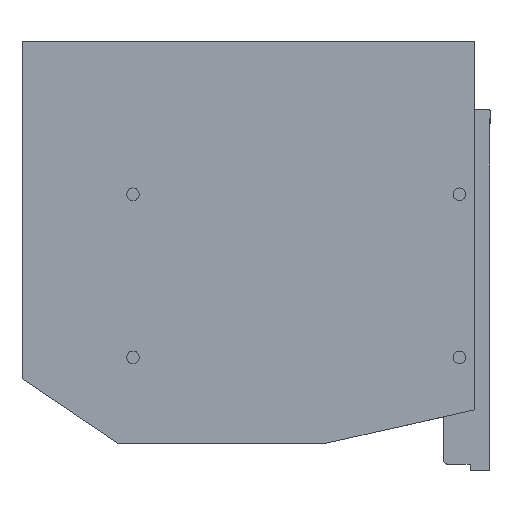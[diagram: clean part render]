
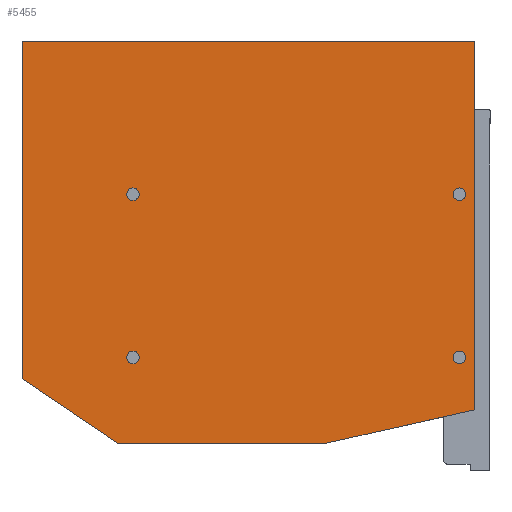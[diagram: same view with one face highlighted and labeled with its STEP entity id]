
A CAD part, left-side view. The second image highlights one B-rep face of the part: STEP entity #5455.
In plain terms, the highlighted planar face has unit normal (-1, 0, 0).
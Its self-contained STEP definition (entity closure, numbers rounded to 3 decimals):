
#30 = EDGE_CURVE ( 'NONE', #178, #1201, #2714, .T. ) ;
#33 = EDGE_CURVE ( 'NONE', #1201, #1506, #2723, .T. ) ;
#34 = EDGE_CURVE ( 'NONE', #1499, #1484, #2735, .T. ) ;
#35 = EDGE_CURVE ( 'NONE', #1459, #1460, #5557, .T. ) ;
#178 = VERTEX_POINT ( 'NONE', #3106 ) ;
#193 = ORIENTED_EDGE ( 'NONE', *, *, #35, .F. ) ;
#194 = ORIENTED_EDGE ( 'NONE', *, *, #5439, .F. ) ;
#195 = ORIENTED_EDGE ( 'NONE', *, *, #1012, .F. ) ;
#196 = ORIENTED_EDGE ( 'NONE', *, *, #5435, .F. ) ;
#197 = ORIENTED_EDGE ( 'NONE', *, *, #1013, .F. ) ;
#198 = ORIENTED_EDGE ( 'NONE', *, *, #5431, .F. ) ;
#199 = ORIENTED_EDGE ( 'NONE', *, *, #1014, .F. ) ;
#200 = ORIENTED_EDGE ( 'NONE', *, *, #988, .F. ) ;
#201 = ORIENTED_EDGE ( 'NONE', *, *, #1164, .T. ) ;
#202 = ORIENTED_EDGE ( 'NONE', *, *, #30, .T. ) ;
#203 = ORIENTED_EDGE ( 'NONE', *, *, #33, .T. ) ;
#204 = ORIENTED_EDGE ( 'NONE', *, *, #840, .T. ) ;
#205 = ORIENTED_EDGE ( 'NONE', *, *, #34, .T. ) ;
#206 = ORIENTED_EDGE ( 'NONE', *, *, #822, .T. ) ;
#371 = CARTESIAN_POINT ( 'NONE',  ( 0., 0., 0. ) ) ;
#372 = DIRECTION ( 'NONE',  ( -1., 0., 0. ) ) ;
#373 = DIRECTION ( 'NONE',  ( 0., -1., 0. ) ) ;
#486 = CARTESIAN_POINT ( 'NONE',  ( 0., 128., -64. ) ) ;
#487 = DIRECTION ( 'NONE',  ( -1., 0., 0. ) ) ;
#488 = DIRECTION ( 'NONE',  ( 0., -1., 0. ) ) ;
#490 = CARTESIAN_POINT ( 'NONE',  ( 0., 128., 0. ) ) ;
#491 = DIRECTION ( 'NONE',  ( -1., 0., 0. ) ) ;
#492 = DIRECTION ( 'NONE',  ( 0., -1., 0. ) ) ;
#495 = CARTESIAN_POINT ( 'NONE',  ( 0., 0., 0. ) ) ;
#496 = DIRECTION ( 'NONE',  ( -1., 0., 0. ) ) ;
#497 = DIRECTION ( 'NONE',  ( 0., -1., 0. ) ) ;
#822 = EDGE_CURVE ( 'NONE', #1484, #1463, #3711, .T. ) ;
#840 = EDGE_CURVE ( 'NONE', #1506, #1499, #3839, .T. ) ;
#988 = EDGE_CURVE ( 'NONE', #2189, #2190, #4486, .T. ) ;
#1012 = EDGE_CURVE ( 'NONE', #2182, #2234, #4492, .T. ) ;
#1013 = EDGE_CURVE ( 'NONE', #2186, #2185, #4489, .T. ) ;
#1014 = EDGE_CURVE ( 'NONE', #2190, #2189, #4491, .T. ) ;
#1164 = EDGE_CURVE ( 'NONE', #1463, #178, #1861, .T. ) ;
#1201 = VERTEX_POINT ( 'NONE', #1919 ) ;
#1459 = VERTEX_POINT ( 'NONE', #3146 ) ;
#1460 = VERTEX_POINT ( 'NONE', #3147 ) ;
#1463 = VERTEX_POINT ( 'NONE', #3150 ) ;
#1484 = VERTEX_POINT ( 'NONE', #3171 ) ;
#1499 = VERTEX_POINT ( 'NONE', #3186 ) ;
#1506 = VERTEX_POINT ( 'NONE', #3193 ) ;
#1861 = LINE ( 'NONE', #1862, #4661 ) ;
#1862 = CARTESIAN_POINT ( 'NONE',  ( 0., 171.5, -72.4 ) ) ;
#1863 = DIRECTION ( 'NONE',  ( 0., 0., -1. ) ) ;
#1919 = CARTESIAN_POINT ( 'NONE',  ( 0., 134.003, -97.596 ) ) ;
#2182 = VERTEX_POINT ( 'NONE', #3200 ) ;
#2185 = VERTEX_POINT ( 'NONE', #3206 ) ;
#2186 = VERTEX_POINT ( 'NONE', #3208 ) ;
#2189 = VERTEX_POINT ( 'NONE', #3199 ) ;
#2190 = VERTEX_POINT ( 'NONE', #3210 ) ;
#2234 = VERTEX_POINT ( 'NONE', #3228 ) ;
#2449 = EDGE_LOOP ( 'NONE', ( #197, #198 ) ) ;
#2455 = EDGE_LOOP ( 'NONE', ( #195, #196 ) ) ;
#2456 = EDGE_LOOP ( 'NONE', ( #199, #200 ) ) ;
#2457 = EDGE_LOOP ( 'NONE', ( #201, #202, #203, #204, #205, #206 ) ) ;
#2458 = EDGE_LOOP ( 'NONE', ( #193, #194 ) ) ;
#2714 = LINE ( 'NONE', #2725, #5562 ) ;
#2723 = LINE ( 'NONE', #2733, #5564 ) ;
#2725 = CARTESIAN_POINT ( 'NONE',  ( 0., 134.003, -97.596 ) ) ;
#2726 = DIRECTION ( 'NONE',  ( 0., -0.83, -0.558 ) ) ;
#2733 = CARTESIAN_POINT ( 'NONE',  ( 0., 52., -97.596 ) ) ;
#2734 = DIRECTION ( 'NONE',  ( 0., -1., 0. ) ) ;
#2735 = LINE ( 'NONE', #2736, #5561 ) ;
#2736 = CARTESIAN_POINT ( 'NONE',  ( 0., -6., 60. ) ) ;
#2737 = DIRECTION ( 'NONE',  ( 0., 0., 1. ) ) ;
#2741 = CARTESIAN_POINT ( 'NONE',  ( 0., 0., -64. ) ) ;
#2742 = DIRECTION ( 'NONE',  ( -1., 0., 0. ) ) ;
#2743 = DIRECTION ( 'NONE',  ( 0., -1., 0. ) ) ;
#3106 = CARTESIAN_POINT ( 'NONE',  ( 0., 171.5, -72.4 ) ) ;
#3146 = CARTESIAN_POINT ( 'NONE',  ( 0., -2.45, -64. ) ) ;
#3147 = CARTESIAN_POINT ( 'NONE',  ( 0., 2.45, -64. ) ) ;
#3150 = CARTESIAN_POINT ( 'NONE',  ( 0., 171.5, 60. ) ) ;
#3171 = CARTESIAN_POINT ( 'NONE',  ( 0., -6., 60. ) ) ;
#3186 = CARTESIAN_POINT ( 'NONE',  ( 0., -6., -84.547 ) ) ;
#3193 = CARTESIAN_POINT ( 'NONE',  ( 0., 52., -97.596 ) ) ;
#3199 = CARTESIAN_POINT ( 'NONE',  ( 0., 2.45, 0. ) ) ;
#3200 = CARTESIAN_POINT ( 'NONE',  ( 0., 125.55, -64. ) ) ;
#3206 = CARTESIAN_POINT ( 'NONE',  ( 0., 130.45, 0. ) ) ;
#3208 = CARTESIAN_POINT ( 'NONE',  ( 0., 125.55, 0. ) ) ;
#3210 = CARTESIAN_POINT ( 'NONE',  ( 0., -2.45, 0. ) ) ;
#3228 = CARTESIAN_POINT ( 'NONE',  ( 0., 130.45, -64. ) ) ;
#3711 = LINE ( 'NONE', #3808, #5605 ) ;
#3808 = CARTESIAN_POINT ( 'NONE',  ( 0., 171.5, 60. ) ) ;
#3809 = DIRECTION ( 'NONE',  ( 0., 1., 0. ) ) ;
#3839 = LINE ( 'NONE', #3863, #4750 ) ;
#3863 = CARTESIAN_POINT ( 'NONE',  ( 0., -6., -84.547 ) ) ;
#3864 = DIRECTION ( 'NONE',  ( 0., -0.976, 0.22 ) ) ;
#4346 = CIRCLE ( 'NONE', #4348, 2.45 ) ;
#4348 = AXIS2_PLACEMENT_3D ( 'NONE', #5061, #5062, #5063 ) ;
#4352 = CIRCLE ( 'NONE', #4354, 2.45 ) ;
#4354 = AXIS2_PLACEMENT_3D ( 'NONE', #5073, #5074, #5075 ) ;
#4358 = CIRCLE ( 'NONE', #4359, 2.45 ) ;
#4359 = AXIS2_PLACEMENT_3D ( 'NONE', #5085, #5086, #5087 ) ;
#4378 = AXIS2_PLACEMENT_3D ( 'NONE', #5154, #5158, #5159 ) ;
#4486 = CIRCLE ( 'NONE', #4490, 2.45 ) ;
#4488 = AXIS2_PLACEMENT_3D ( 'NONE', #486, #487, #488 ) ;
#4489 = CIRCLE ( 'NONE', #4517, 2.45 ) ;
#4490 = AXIS2_PLACEMENT_3D ( 'NONE', #371, #372, #373 ) ;
#4491 = CIRCLE ( 'NONE', #4519, 2.45 ) ;
#4492 = CIRCLE ( 'NONE', #4488, 2.45 ) ;
#4517 = AXIS2_PLACEMENT_3D ( 'NONE', #490, #491, #492 ) ;
#4519 = AXIS2_PLACEMENT_3D ( 'NONE', #495, #496, #497 ) ;
#4661 = VECTOR ( 'NONE', #1863, 1000. ) ;
#4750 = VECTOR ( 'NONE', #3864, 1000. ) ;
#5061 = CARTESIAN_POINT ( 'NONE',  ( 0., 128., 0. ) ) ;
#5062 = DIRECTION ( 'NONE',  ( -1., 0., 0. ) ) ;
#5063 = DIRECTION ( 'NONE',  ( 0., -1., 0. ) ) ;
#5073 = CARTESIAN_POINT ( 'NONE',  ( 0., 128., -64. ) ) ;
#5074 = DIRECTION ( 'NONE',  ( -1., 0., 0. ) ) ;
#5075 = DIRECTION ( 'NONE',  ( 0., -1., 0. ) ) ;
#5085 = CARTESIAN_POINT ( 'NONE',  ( 0., 0., -64. ) ) ;
#5086 = DIRECTION ( 'NONE',  ( -1., 0., 0. ) ) ;
#5087 = DIRECTION ( 'NONE',  ( 0., -1., 0. ) ) ;
#5143 = PLANE ( 'NONE',  #4378 ) ;
#5148 = FACE_BOUND ( 'NONE', #2455, .T. ) ;
#5151 = FACE_OUTER_BOUND ( 'NONE', #2457, .T. ) ;
#5152 = FACE_BOUND ( 'NONE', #2458, .T. ) ;
#5154 = CARTESIAN_POINT ( 'NONE',  ( 0., 171.5, 60. ) ) ;
#5155 = FACE_BOUND ( 'NONE', #2449, .T. ) ;
#5157 = FACE_BOUND ( 'NONE', #2456, .T. ) ;
#5158 = DIRECTION ( 'NONE',  ( 1., 0., 0. ) ) ;
#5159 = DIRECTION ( 'NONE',  ( 0., 1., 0. ) ) ;
#5431 = EDGE_CURVE ( 'NONE', #2185, #2186, #4346, .T. ) ;
#5435 = EDGE_CURVE ( 'NONE', #2234, #2182, #4352, .T. ) ;
#5439 = EDGE_CURVE ( 'NONE', #1460, #1459, #4358, .T. ) ;
#5455 = ADVANCED_FACE ( 'NONE', ( #5152, #5148, #5155, #5157, #5151 ), #5143, .F. ) ;
#5555 = AXIS2_PLACEMENT_3D ( 'NONE', #2741, #2742, #2743 ) ;
#5557 = CIRCLE ( 'NONE', #5555, 2.45 ) ;
#5561 = VECTOR ( 'NONE', #2737, 1000. ) ;
#5562 = VECTOR ( 'NONE', #2726, 1000. ) ;
#5564 = VECTOR ( 'NONE', #2734, 1000. ) ;
#5605 = VECTOR ( 'NONE', #3809, 1000. ) ;
